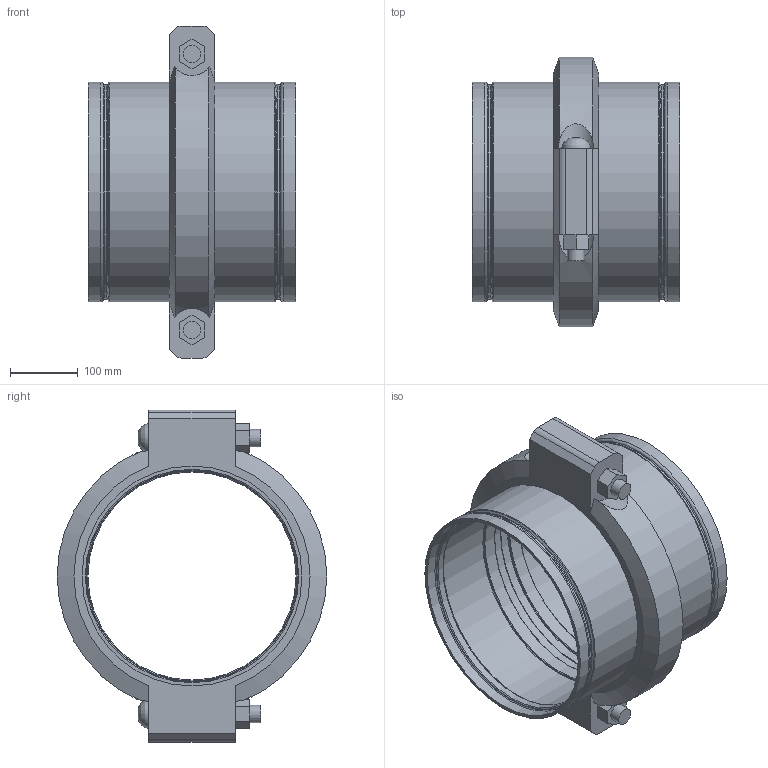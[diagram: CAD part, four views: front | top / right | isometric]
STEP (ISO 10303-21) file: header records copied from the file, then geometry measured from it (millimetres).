
FILE_DESCRIPTION(/* description */ ('VIC STRENGTHIN 100 EXPANSION JOINT 1 COUPLING COMPRESSED STYLE E155 (ST1)','CAx-IF Rec.Pracs.---Representation and Presentation of Product Manufacturing Information (PMI)---4.0---2014-10-13'),/* implementation_level */ '2;1');
FILE_NAME(/* name */ 'C:\Users\Vjadhav\AppData\Roaming\Autodesk\ApplicationPlugins\Victaulic.Temp\A42\Victaulic_SS-StrengThin 100_Expansion Joint_Compressed_1 Coupling_Style E155 (ST1)_12 (300).stp',/* time_stamp */ '2021-07-23T12:24:37+06:00',/* author */ ('kkamble'),/* organization */ ('Victaulic'),/* preprocessor_version */ 'ST-DEVELOPER v17.2',/* originating_system */ 'Autodesk Inventor 2019',/* authorisation */ '');
FILE_SCHEMA (('AP242_MANAGED_MODEL_BASED_3D_ENGINEERING_MIM_LF { 1 0 10303 442 1 1 4 }'));
Length unit declared in the file: inch
Products named in the file (3): E155-12.0; E494G-12.0; 077-12.0
Assembly tree (3 placements, depth 2):
  E155-12.0
    E494G-12.0  x2
    077-12.0
Bounding box: 305.56 x 397 x 488.95 mm (x, y, z)
Volume: 4954677.2 mm3; surface area: 971922.8 mm2
Topology: 3 solids, 5 shells, 127 faces, 369 edges, 268 vertices
Faces by surface type: plane 48, cylinder 37, torus 32, cone 8, bspline 2
Full cylindrical faces by diameter (mm): 25.4 x4, 27.432 x2, 306.426 x2, 308.737 x2, 314.3 x6, 315.976 x2, 318.287 x2, 323.85 x7
Entity records: 3454 total; most frequent: CARTESIAN_POINT 741, DIRECTION 573, ORIENTED_EDGE 508, EDGE_CURVE 254, AXIS2_PLACEMENT_3D 243, VERTEX_POINT 181, CIRCLE 147, EDGE_LOOP 111
